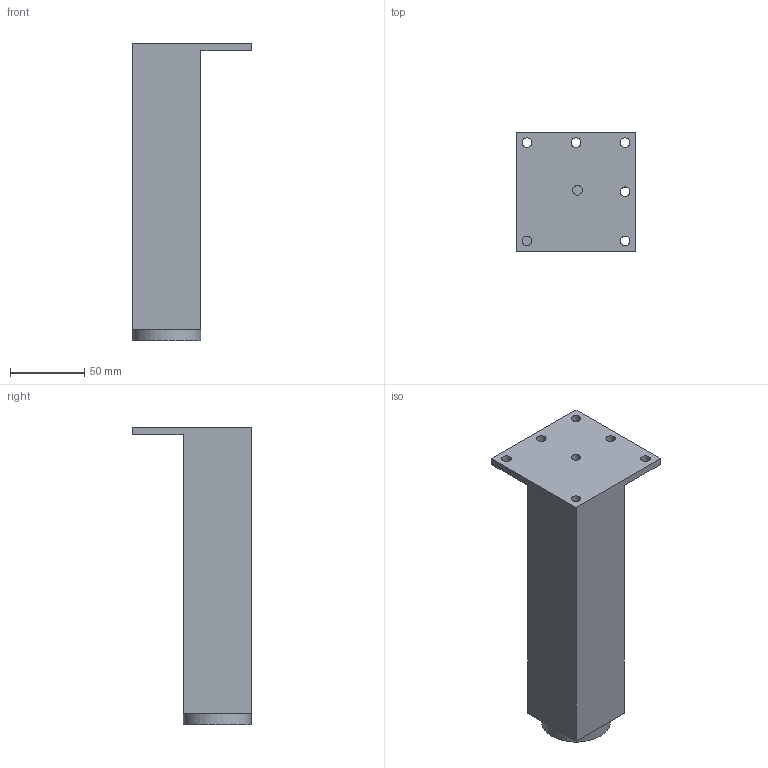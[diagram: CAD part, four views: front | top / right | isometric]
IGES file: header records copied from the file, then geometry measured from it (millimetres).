
Start section: Data from Parasolid IGES Translator 20.0.26, Copyright(c) 2006 Siemens P LM Software. All Rights Reserved.
Global section: file name: 9119546.igs; native system: By Siemens PLM Incorporated; preprocessor: XPlus GENERIC/IGES 20.0.26; author: Noname; organization: Noname; date: 20210125.170527; units: millimetre
Bounding box: 80 x 80 x 200 mm (x, y, z)
Surface area: 50366.6 mm2 (no closed solid volume)
Topology: 0 solids, 0 shells, 23 faces, 104 edges, 93 vertices
Faces by surface type: extrusion 15, revolution 8
